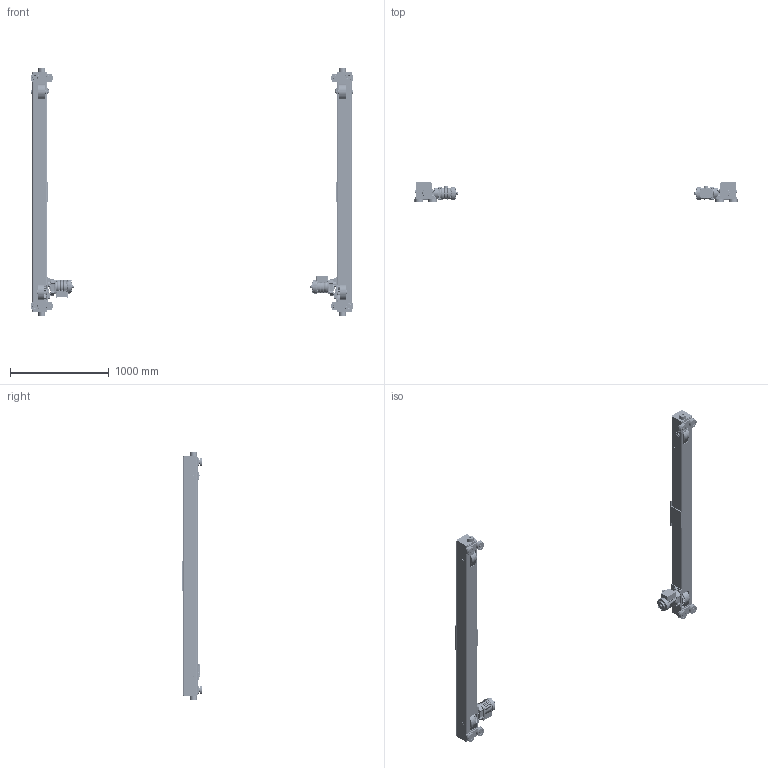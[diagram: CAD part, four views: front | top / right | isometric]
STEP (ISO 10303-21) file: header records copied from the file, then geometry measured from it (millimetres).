
FILE_DESCRIPTION (( 'STEP AP214' ), '1' );
FILE_NAME ('TMS-3-0360.STEP', '2026-08-12T19:25:33', ( '' ), ( '' ), 'SwSTEP 2.0', 'SolidWorks 2026', '' );
FILE_SCHEMA (( 'AUTOMOTIVE_DESIGN' ));
Length unit declared in the file: inch
Products named in the file (65): N6QO310E9108_N6QO3101108 DOMESTIC; 6240820; 6240825; 9093330_9093330; N6Q07201102; 9012707_9012707; 6240815; J1BE1-0602020_AS 1420 - M6 x 20-S; 9012709_Rectangular section spring washer BS 4464 - 16 (Type B); 62588; N6QL210207; 9093101_9093101; G1JE025S9701; 9091272_9091272; T600-600-004_95.125; MS555010_MS555010; 6232404; 6240811; 6240810; 9000707; 9000605; 62401_0350-0360 - 25# RAIL; N6QO720E91311; N6QO720E91341; 9047252_9047252; N6QO720E91013; TMS-3-0360; 9012514_9012514; G1JE025S9604; 6240813; 9091273_9091273; G1JE025S9310; N6QO3101108_N6QO3101108; G1JM025S_NORMAL; 62399_6239902; 62587; 6240805X_6240805A; J1WS011-10060_GB_FASTENER_WASHER_SW 6; G1JE025S9401; G1JM025S_ROTATED 180 DEGREES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
Assembly tree (234 placements, depth 4):
  TMS-3-0360
    62400_0350-0360 - 25# RAIL
      62398_6239802
        T600-600-004_95.125
        6240824
        6240820
      6240811  x2
      6240813
      6240810
      6240808
      6240809
      T3P116030
      6240817X_6240817A  x2
        6240805X_6240805A
        6232305
    62401_0350-0360 - 25# RAIL
      62399_6239902
        T600-600-004_95.125
        6240824
        6240820
      6240811  x2
      6240813
      T3P116030
      6240809
      6240808
      6240810
      6240817X_6240817A  x2
        6240805X_6240805A
        6232305
    N6QO3101108_N6QO3101108  x8
      N6QO310E9108_N6QO3101108 DOMESTIC
      9047252_9047252
      9000605
    6232404  x8
    9047125_B27.7M - 3AM1-23  x8
    N6QL210207  x4
    9012514_9012514  x4
    9012711_9012711  x20
    9093101_9093101  x4
    6240815  x4
    6240825  x4
    9093327_9093327  x8
    N6QO7201101  x2
      N6QO720E91311
      N6QO720E91013
      9000707
      J1WS011-10060_GB_FASTENER_WASHER_SW 6
      J1BE1-0602020_AS 1420 - M6 x 20-S
      N6QO720E91341
    N6Q07201102  x2
      N6Q0720E9102
      9000707
    G1JM025S_ROTATED 180 DEGREES
      G1JE025S9303
      G1JE025S9310
      G1JE025S9401
      G1JE025S9503
      G1JE025S9610
      G1JE025S9609
      G1JE025S9707
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Bounding box: 3275.61 x 207.96 x 2513.22 mm (x, y, z)
Volume: 33082271.5 mm3; surface area: 8692936.1 mm2
Topology: 258 solids, 322 shells, 18598 faces, 46874 edges, 29570 vertices
Faces by surface type: plane 8932, cylinder 4452, bspline 2134, cone 2002, torus 892, sphere 186
Entity records: 196803 total; most frequent: CARTESIAN_POINT 84807, ORIENTED_EDGE 23088, DIRECTION 20962, EDGE_CURVE 11548, AXIS2_PLACEMENT_3D 7940, VERTEX_POINT 7345, VECTOR 5082, LINE 5082
